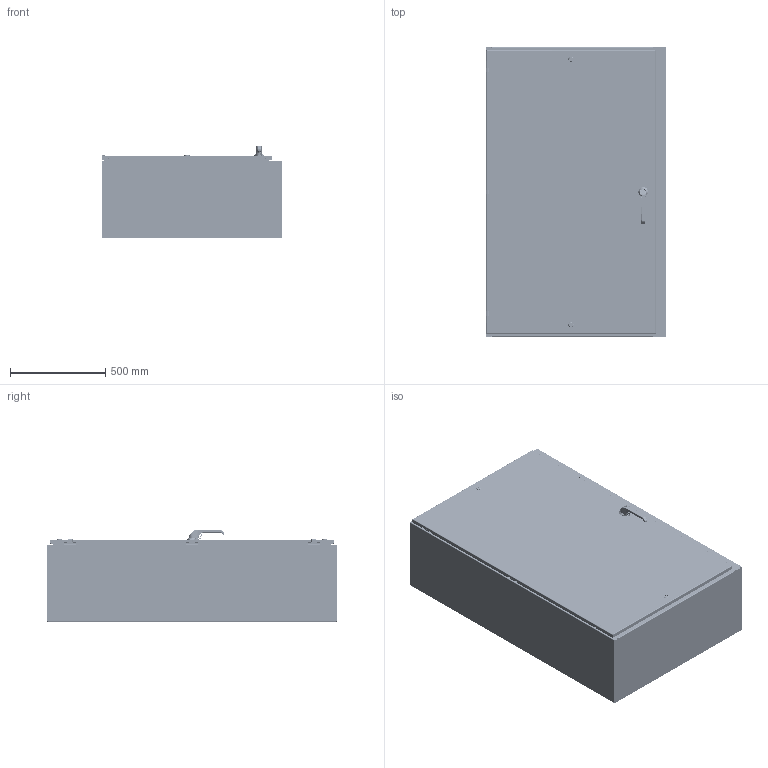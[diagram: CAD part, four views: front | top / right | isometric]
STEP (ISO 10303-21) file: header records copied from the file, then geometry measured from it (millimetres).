
FILE_DESCRIPTION((''),'2;1');
FILE_NAME('MODEL-313_ASM','2023-01-26T06:13:40',('johnh'),('SAGINAW CONTROL & ENGINEERING'),'CREO PARAMETRIC BY PTC INC, 2021284','CREO PARAMETRIC BY PTC INC, 2021284','');
FILE_SCHEMA(('AUTOMOTIVE_DESIGN { 1 0 10303 214 1 1 1 1 }'));
Length unit declared in the file: inch
Products named in the file (56): MODEL-313-BDY; MODEL-313-TP; MODEL-313-BTM; MODEL-313-DR; 100837; 100882; 111267; 100794_SHAFT; 100794_INSERT; 100794_CAM; 100794_NUT; 100794_SCREW; 100794_ASM; 100952_HANDLE; 100952_HANDLE_INSERT; 100952_SHAFT_CAM; 100952_ADAPTER_CAM; 100952_NUT_CAM; 100952_BASE; 100952_O-RING; 100952_WASHER_SEALING; 100952_NUT_MOUNTING_LARGE; 100952_NUT_MOUNTING_SMALL; 100952_SCREW_SMALL; 100952_INSERT; 100952_PADLOCK_CATCH; 100952_ASM; 102237; 100030; 102237_ASM; MODEL-313-ROD-UPR; 128146; 128145; 128144; 102482; MODEL-313-ROD-UPR_ASM; 128143; 112504; MODEL-313-ROD-LWR; MODEL-313-ROD-LWR_ASM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
Assembly tree (108 placements, depth 4):
  MODEL-313_ASM
    MODEL-313-BDY
    MODEL-313-TP
    MODEL-313-BTM
    MODEL-313-DOOR-ASSY_ASM
      MODEL-313-DR
      100837  x7
      100882  x4
      111267
      100794_ASM  x2
        100794_SHAFT
        100794_INSERT
        100794_CAM
        100794_NUT
        100794_SCREW
      100952_ASM
        100952_HANDLE
        100952_HANDLE_INSERT
        100952_SHAFT_CAM
        100952_ADAPTER_CAM
        100952_NUT_CAM
        100952_BASE
        100952_O-RING
        100952_WASHER_SEALING
        100952_NUT_MOUNTING_LARGE
        100952_NUT_MOUNTING_SMALL
        100952_SCREW_SMALL
        100952_INSERT
        100952_PADLOCK_CATCH
      102237_ASM
        102237
        100030  x2
      MODEL-313-ROD-UPR_ASM
        MODEL-313-ROD-UPR
        128146
        128145
        128144
        102482  x2
      128143  x2
      112504  x2
      MODEL-313-ROD-LWR_ASM
        MODEL-313-ROD-LWR
        128146
        128145
        128144
        102482  x2
      MODEL-313-GSKT
      126391_ASM  x3
        126391
      126393  x3
      102483  x9
      101226  x3
      101376  x3
      102140  x3
    100837  x2
    101653  x8
    103357
    122193
    SUBPANEL-SUBASSEMBLY_ASM
      SUBPANEL
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Bounding box: 949.33 x 1524 x 483.53 mm (x, y, z)
Volume: 14915301.4 mm3; surface area: 13508993.5 mm2
Topology: 105 solids, 105 shells, 7733 faces, 19498 edges, 12049 vertices
Faces by surface type: plane 2958, cylinder 2111, bspline 1217, cone 611, torus 584, sphere 252
Entity records: 224446 total; most frequent: CARTESIAN_POINT 75075, ORIENTED_EDGE 22310, DIRECTION 20782, PRESENTATION_STYLE_ASSIGNMENT 11613, EDGE_CURVE 11155, STYLED_ITEM 11138, CURVE_STYLE 10993, AXIS2_PLACEMENT_3D 7731
